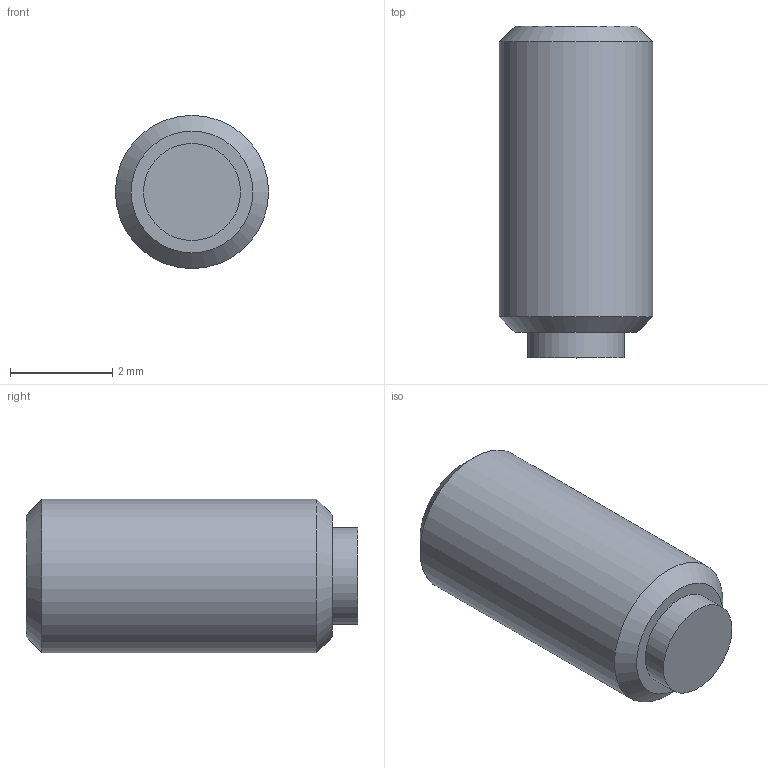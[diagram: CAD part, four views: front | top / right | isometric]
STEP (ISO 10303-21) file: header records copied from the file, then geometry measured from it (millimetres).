
FILE_DESCRIPTION( ( 'STEP AP203' ), '1' );
FILE_NAME( 'C:/Temp/Ganter_Step_05_03_2020/data/3_2/gn913_3/Grub screw GN 913.3-M3-6-MS.stp', '2020-03-13T05:35:43', ( 'License CC BY-ND 4.0' ), ( 'CADENAS' ), ' ', 'PARTsolutions', ' ' );
FILE_SCHEMA( ( 'CONFIG_CONTROL_DESIGN' ) );
Length unit declared in the file: millimetre
Products named in the file (1): _Grub screw GN 913.3-M3-6-MS
Bounding box: 3 x 6.5 x 3 mm (x, y, z)
Volume: 40.1 mm3; surface area: 77.8 mm2
Topology: 1 solids, 1 shells, 14 faces, 28 edges, 18 vertices
Faces by surface type: plane 10, cylinder 2, cone 2
Full cylindrical faces by diameter (mm): 1.9 x1, 3 x1
Entity records: 386 total; most frequent: DIRECTION 60, CARTESIAN_POINT 57, ORIENTED_EDGE 48, EDGE_CURVE 24, AXIS2_PLACEMENT_3D 21, EDGE_LOOP 20, VERTEX_POINT 18, LINE 18
